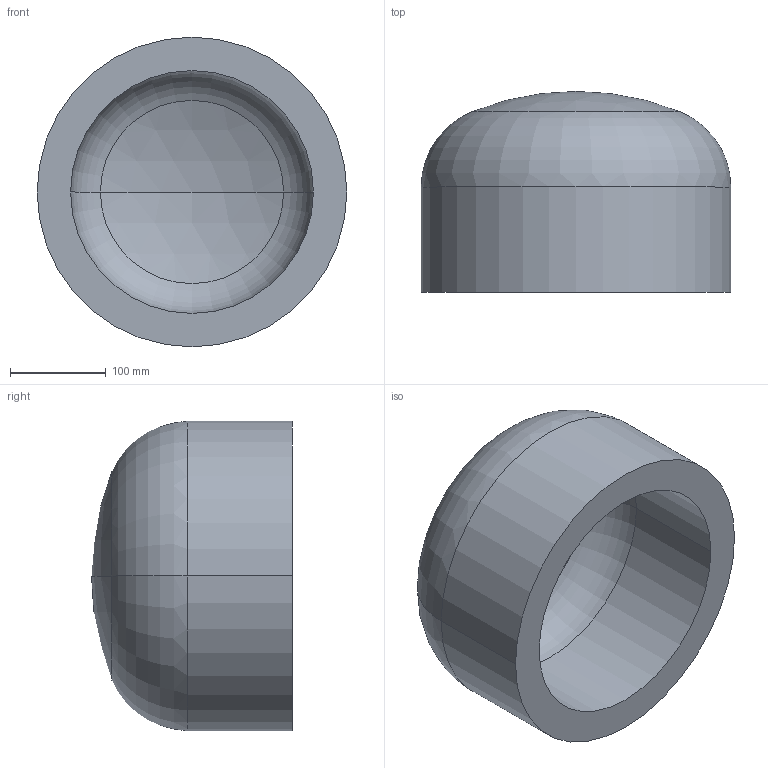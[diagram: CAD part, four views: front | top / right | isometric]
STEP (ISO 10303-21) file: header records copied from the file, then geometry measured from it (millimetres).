
FILE_DESCRIPTION (( 'STEP AP203' ), '1' );
FILE_NAME ('DIN 28013 Korbbogenform_-_Boden DIN 28013 - 323,9 x 110 - I - s=35.step', '2016-07-01T07:45:22', ( '' ), ( '' ), 'SwSTEP 2.0', 'SolidWorks 2013', '' );
FILE_SCHEMA (( 'CONFIG_CONTROL_DESIGN' ));
Length unit declared in the file: millimetre
Products named in the file (1): DIN 28013 Korbbogenform_-_Boden DIN 28013 - 323,9 x 110 - I - s=35
Bounding box: 323.9 x 210.07 x 323.9 mm (x, y, z)
Volume: 6994585 mm3; surface area: 434022.4 mm2
Topology: 1 solids, 1 shells, 13 faces, 24 edges, 14 vertices
Faces by surface type: torus 4, cylinder 4, sphere 4, plane 1
Entity records: 407 total; most frequent: DIRECTION 72, CARTESIAN_POINT 52, ORIENTED_EDGE 48, AXIS2_PLACEMENT_3D 34, EDGE_CURVE 24, CIRCLE 20, EDGE_LOOP 14, VERTEX_POINT 14
